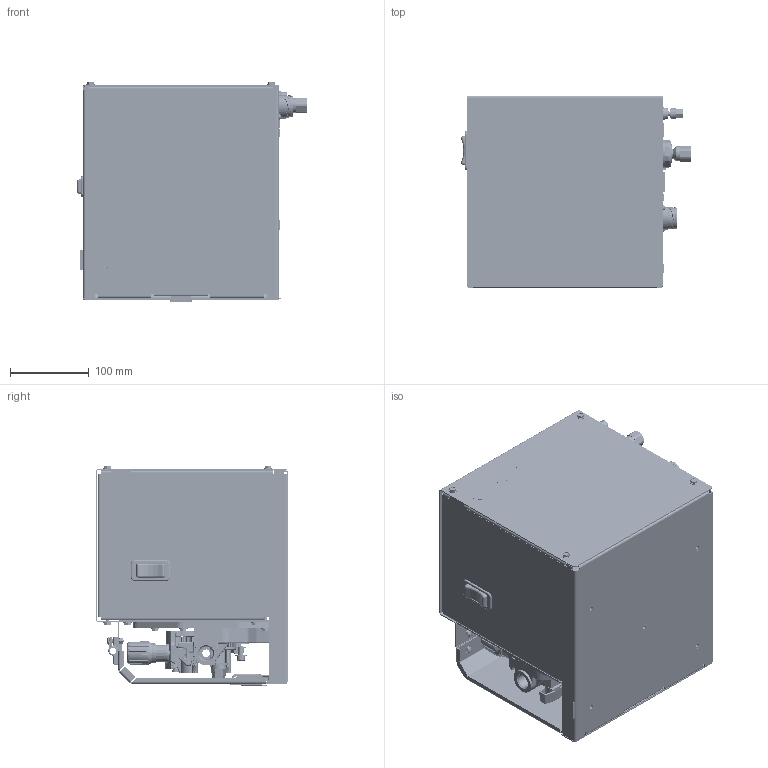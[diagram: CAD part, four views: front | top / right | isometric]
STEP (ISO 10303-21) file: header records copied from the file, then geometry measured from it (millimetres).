
FILE_DESCRIPTION (( 'STEP AP214' ), '1' );
FILE_NAME ('301728.STEP', '2024-05-28T16:05:14', ( '' ), ( '' ), 'SwSTEP 2.0', 'SolidWorks 2022', '' );
FILE_SCHEMA (( 'AUTOMOTIVE_DESIGN' ));
Length unit declared in the file: inch
Products named in the file (1): 301728
Bounding box: 291.8 x 243.97 x 279.68 mm (x, y, z)
Volume: 1532521.5 mm3; surface area: 1701390.9 mm2
Topology: 164 solids, 170 shells, 12195 faces, 30744 edges, 19286 vertices
Faces by surface type: plane 4229, cylinder 4104, bspline 1897, cone 1223, torus 632, sphere 110
Entity records: 657899 total; most frequent: CARTESIAN_POINT 207311, ORIENTED_EDGE 63008, DIRECTION 55237, EDGE_CURVE 31504, AXIS2_PLACEMENT_3D 20184, VERTEX_POINT 19875, VECTOR 14869, LINE 14869
